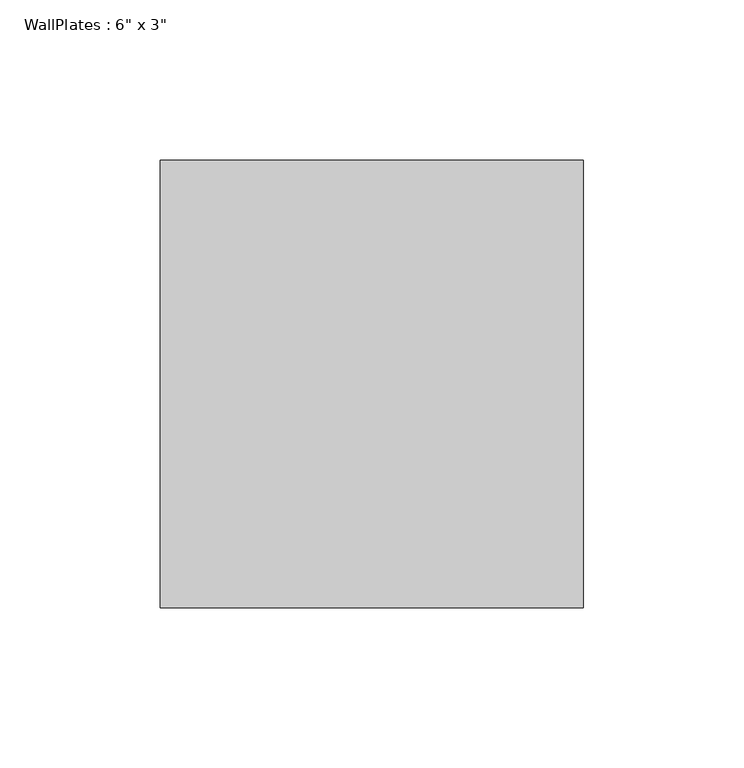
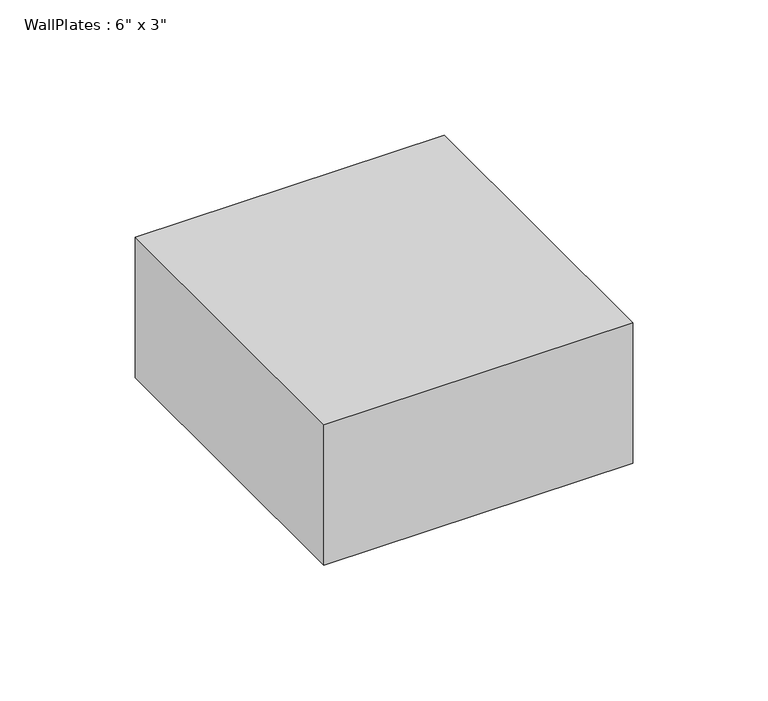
"""IFC4 building model written with IfcOpenShell, lengths in millimetres: beam geometry."""

from ifc_helpers import new_model, si_unit, frame, origin, place, context, project, spatial, polyline, outline, extrude, source, transform, mapped, element, save


def beam_0a54014a(model_context):
    return source(origin(), model_context, "Body", "SweptSolid", [
        extrude(outline(polyline([(-66.0425, -69.85), (-66.0425, 69.85), (66.0425, 69.85), (66.0425, -69.85), (-66.0425, -69.85)])), frame((0.0, 0.0, -31.75), z_axis=(0.0, 0.0, 1.0), x_axis=(1.0, 0.0, 0.0)), (0.0, 0.0, 1.0), 63.5),
    ])


if __name__ == "__main__":
    model = new_model("IFC4")
    model_context = context("Model", 3, world=origin())
    ifc_project = project(units=[si_unit("LENGTHUNIT", "METRE", prefix="MILLI")], contexts=[model_context])
    site = spatial("IfcSite", under=ifc_project)
    building = spatial("IfcBuilding", under=site)
    placement = place(None, origin())
    beam_shape = beam_0a54014a(model_context)
    element("IfcBeam", 1, ObjectType="WallPlates : 6\" x 3\"", at=placement, inside=building, context=model_context, shape_type="MappedRepresentation", body=[
        mapped(beam_shape, transform((0.0, 0.0, 0.0), x_axis=(1.0, 0.0, 0.0), y_axis=(0.0, 1.0, 0.0), z_axis=(0.0, 0.0, 1.0))),
    ])
    save(model, "model.ifc")
